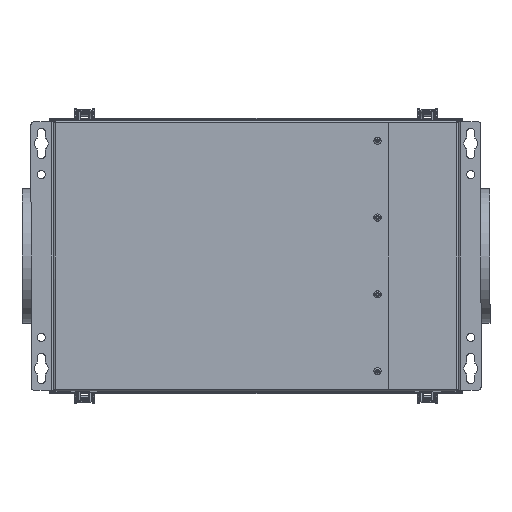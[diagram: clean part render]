
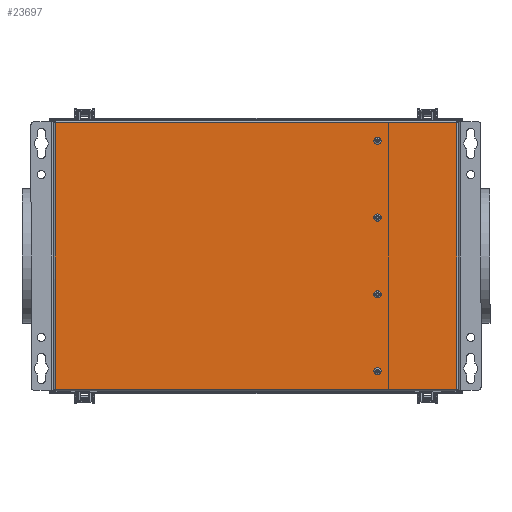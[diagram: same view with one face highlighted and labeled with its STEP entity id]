
A CAD part, front view. The second image highlights one B-rep face of the part: STEP entity #23697.
In plain terms, the highlighted planar face has unit normal (0, -1, 0).
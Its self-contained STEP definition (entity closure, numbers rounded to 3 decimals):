
#97 = EDGE_CURVE ( 'NONE', #17035, #4877, #20005, .T. ) ;
#122 = EDGE_CURVE ( 'NONE', #28145, #1775, #26114, .T. ) ;
#397 = CARTESIAN_POINT ( 'NONE',  ( 135., 0., 125.9 ) ) ;
#1523 = ORIENTED_EDGE ( 'NONE', *, *, #19997, .T. ) ;
#1775 = VERTEX_POINT ( 'NONE', #14804 ) ;
#1871 = VERTEX_POINT ( 'NONE', #26632 ) ;
#1884 = AXIS2_PLACEMENT_3D ( 'NONE', #29686, #15989, #2267 ) ;
#1918 = ORIENTED_EDGE ( 'NONE', *, *, #18980, .T. ) ;
#1961 = CARTESIAN_POINT ( 'NONE',  ( 223., 0., -148. ) ) ;
#2267 = DIRECTION ( 'NONE',  ( 0., 0., -1. ) ) ;
#2631 = DIRECTION ( 'NONE',  ( 0., -1., 0. ) ) ;
#2822 = CIRCLE ( 'NONE', #16018, 2.1 ) ;
#3055 = AXIS2_PLACEMENT_3D ( 'NONE', #26156, #12470, #28487 ) ;
#3188 = ORIENTED_EDGE ( 'NONE', *, *, #12412, .F. ) ;
#3232 = EDGE_CURVE ( 'NONE', #1871, #22717, #23207, .T. ) ;
#3255 = ORIENTED_EDGE ( 'NONE', *, *, #8751, .T. ) ;
#3437 = LINE ( 'NONE', #16657, #8854 ) ;
#3840 = ORIENTED_EDGE ( 'NONE', *, *, #12358, .F. ) ;
#3842 = VERTEX_POINT ( 'NONE', #397 ) ;
#4621 = CARTESIAN_POINT ( 'NONE',  ( 135., 0., -40.567 ) ) ;
#4877 = VERTEX_POINT ( 'NONE', #7405 ) ;
#5243 = CARTESIAN_POINT ( 'NONE',  ( 223., 0., -148. ) ) ;
#5482 = FACE_BOUND ( 'NONE', #12349, .T. ) ;
#5683 = CIRCLE ( 'NONE', #6787, 2.1 ) ;
#5800 = ORIENTED_EDGE ( 'NONE', *, *, #28879, .F. ) ;
#6151 = CIRCLE ( 'NONE', #13304, 2.1 ) ;
#6746 = CARTESIAN_POINT ( 'NONE',  ( 135., 0., 130.1 ) ) ;
#6787 = AXIS2_PLACEMENT_3D ( 'NONE', #16357, #2631, #18634 ) ;
#7405 = CARTESIAN_POINT ( 'NONE',  ( -223., 0., 148. ) ) ;
#7426 = DIRECTION ( 'NONE',  ( 0., -1., 0. ) ) ;
#7851 = VECTOR ( 'NONE', #19819, 1000. ) ;
#8454 = CARTESIAN_POINT ( 'NONE',  ( -225., 0., 150. ) ) ;
#8549 = PLANE ( 'NONE',  #24420 ) ;
#8733 = VERTEX_POINT ( 'NONE', #1961 ) ;
#8751 = EDGE_CURVE ( 'NONE', #4877, #26431, #15613, .T. ) ;
#8854 = VECTOR ( 'NONE', #9870, 1000. ) ;
#9442 = ORIENTED_EDGE ( 'NONE', *, *, #26554, .F. ) ;
#9870 = DIRECTION ( 'NONE',  ( 1., 0., 0. ) ) ;
#10539 = DIRECTION ( 'NONE',  ( 0., -1., 0. ) ) ;
#10873 = DIRECTION ( 'NONE',  ( 0., 0., 1. ) ) ;
#12349 = EDGE_LOOP ( 'NONE', ( #24675, #3188 ) ) ;
#12358 = EDGE_CURVE ( 'NONE', #1775, #28145, #5683, .T. ) ;
#12412 = EDGE_CURVE ( 'NONE', #29566, #3842, #2822, .T. ) ;
#12470 = DIRECTION ( 'NONE',  ( 0., -1., 0. ) ) ;
#12600 = CARTESIAN_POINT ( 'NONE',  ( 223., 0., 148. ) ) ;
#13284 = CARTESIAN_POINT ( 'NONE',  ( 135., 0., 128. ) ) ;
#13304 = AXIS2_PLACEMENT_3D ( 'NONE', #13284, #29284, #15592 ) ;
#13611 = EDGE_CURVE ( 'NONE', #22717, #1871, #22832, .T. ) ;
#13616 = ORIENTED_EDGE ( 'NONE', *, *, #3232, .F. ) ;
#14027 = CARTESIAN_POINT ( 'NONE',  ( 135., 0., -128. ) ) ;
#14258 = CARTESIAN_POINT ( 'NONE',  ( 135., 0., 44.767 ) ) ;
#14804 = CARTESIAN_POINT ( 'NONE',  ( 135., 0., -44.767 ) ) ;
#14875 = CARTESIAN_POINT ( 'NONE',  ( 135., 0., -42.667 ) ) ;
#14892 = VECTOR ( 'NONE', #23592, 1000. ) ;
#15435 = CIRCLE ( 'NONE', #1884, 2.1 ) ;
#15521 = ORIENTED_EDGE ( 'NONE', *, *, #122, .F. ) ;
#15592 = DIRECTION ( 'NONE',  ( 0., 0., -1. ) ) ;
#15613 = LINE ( 'NONE', #22551, #16320 ) ;
#15679 = EDGE_CURVE ( 'NONE', #3842, #29566, #6151, .T. ) ;
#15989 = DIRECTION ( 'NONE',  ( 0., -1., 0. ) ) ;
#16018 = AXIS2_PLACEMENT_3D ( 'NONE', #21133, #7426, #23469 ) ;
#16253 = EDGE_LOOP ( 'NONE', ( #9442, #5800 ) ) ;
#16320 = VECTOR ( 'NONE', #29390, 1000. ) ;
#16357 = CARTESIAN_POINT ( 'NONE',  ( 135., 0., -42.667 ) ) ;
#16657 = CARTESIAN_POINT ( 'NONE',  ( -225., 0., -148. ) ) ;
#16981 = FACE_BOUND ( 'NONE', #27597, .T. ) ;
#17035 = VERTEX_POINT ( 'NONE', #12600 ) ;
#17158 = DIRECTION ( 'NONE',  ( 0., 0., -1. ) ) ;
#17880 = CARTESIAN_POINT ( 'NONE',  ( -223., 0., -148. ) ) ;
#17947 = VERTEX_POINT ( 'NONE', #14258 ) ;
#18150 = VERTEX_POINT ( 'NONE', #24295 ) ;
#18575 = DIRECTION ( 'NONE',  ( 0., -1., 0. ) ) ;
#18619 = AXIS2_PLACEMENT_3D ( 'NONE', #14027, #18575, #23211 ) ;
#18634 = DIRECTION ( 'NONE',  ( 0., 0., -1. ) ) ;
#18980 = EDGE_CURVE ( 'NONE', #26431, #8733, #3437, .T. ) ;
#19819 = DIRECTION ( 'NONE',  ( -1., 0., 0. ) ) ;
#19997 = EDGE_CURVE ( 'NONE', #8733, #17035, #21661, .T. ) ;
#20005 = LINE ( 'NONE', #29413, #7851 ) ;
#20055 = ORIENTED_EDGE ( 'NONE', *, *, #13611, .F. ) ;
#20246 = ORIENTED_EDGE ( 'NONE', *, *, #97, .T. ) ;
#20414 = CIRCLE ( 'NONE', #25303, 2.1 ) ;
#21133 = CARTESIAN_POINT ( 'NONE',  ( 135., 0., 128. ) ) ;
#21661 = LINE ( 'NONE', #5243, #14892 ) ;
#22002 = EDGE_LOOP ( 'NONE', ( #3255, #1918, #1523, #20246 ) ) ;
#22551 = CARTESIAN_POINT ( 'NONE',  ( -223., 0., 148. ) ) ;
#22717 = VERTEX_POINT ( 'NONE', #26931 ) ;
#22832 = CIRCLE ( 'NONE', #3055, 2.1 ) ;
#23068 = FACE_OUTER_BOUND ( 'NONE', #22002, .T. ) ;
#23207 = CIRCLE ( 'NONE', #18619, 2.1 ) ;
#23211 = DIRECTION ( 'NONE',  ( 0., 0., -1. ) ) ;
#23469 = DIRECTION ( 'NONE',  ( 0., 0., -1. ) ) ;
#23592 = DIRECTION ( 'NONE',  ( 0., 0., 1. ) ) ;
#23697 = ADVANCED_FACE ( 'NONE', ( #29150, #5482, #23068, #16981, #23783 ), #8549, .F. ) ;
#23783 = FACE_BOUND ( 'NONE', #29460, .T. ) ;
#24221 = CARTESIAN_POINT ( 'NONE',  ( 135., 0., 42.667 ) ) ;
#24295 = CARTESIAN_POINT ( 'NONE',  ( 135., 0., 40.567 ) ) ;
#24420 = AXIS2_PLACEMENT_3D ( 'NONE', #8454, #24542, #10873 ) ;
#24542 = DIRECTION ( 'NONE',  ( 0., 1., 0. ) ) ;
#24675 = ORIENTED_EDGE ( 'NONE', *, *, #15679, .F. ) ;
#25260 = AXIS2_PLACEMENT_3D ( 'NONE', #14875, #28566, #17158 ) ;
#25303 = AXIS2_PLACEMENT_3D ( 'NONE', #24221, #10539, #26507 ) ;
#26114 = CIRCLE ( 'NONE', #25260, 2.1 ) ;
#26156 = CARTESIAN_POINT ( 'NONE',  ( 135., 0., -128. ) ) ;
#26431 = VERTEX_POINT ( 'NONE', #17880 ) ;
#26507 = DIRECTION ( 'NONE',  ( 0., 0., -1. ) ) ;
#26554 = EDGE_CURVE ( 'NONE', #18150, #17947, #15435, .T. ) ;
#26632 = CARTESIAN_POINT ( 'NONE',  ( 135., 0., -130.1 ) ) ;
#26931 = CARTESIAN_POINT ( 'NONE',  ( 135., 0., -125.9 ) ) ;
#27597 = EDGE_LOOP ( 'NONE', ( #3840, #15521 ) ) ;
#28145 = VERTEX_POINT ( 'NONE', #4621 ) ;
#28487 = DIRECTION ( 'NONE',  ( 0., 0., -1. ) ) ;
#28566 = DIRECTION ( 'NONE',  ( 0., -1., 0. ) ) ;
#28879 = EDGE_CURVE ( 'NONE', #17947, #18150, #20414, .T. ) ;
#29150 = FACE_BOUND ( 'NONE', #16253, .T. ) ;
#29284 = DIRECTION ( 'NONE',  ( 0., -1., 0. ) ) ;
#29390 = DIRECTION ( 'NONE',  ( 0., 0., -1. ) ) ;
#29413 = CARTESIAN_POINT ( 'NONE',  ( 225., 0., 148. ) ) ;
#29460 = EDGE_LOOP ( 'NONE', ( #13616, #20055 ) ) ;
#29566 = VERTEX_POINT ( 'NONE', #6746 ) ;
#29686 = CARTESIAN_POINT ( 'NONE',  ( 135., 0., 42.667 ) ) ;
